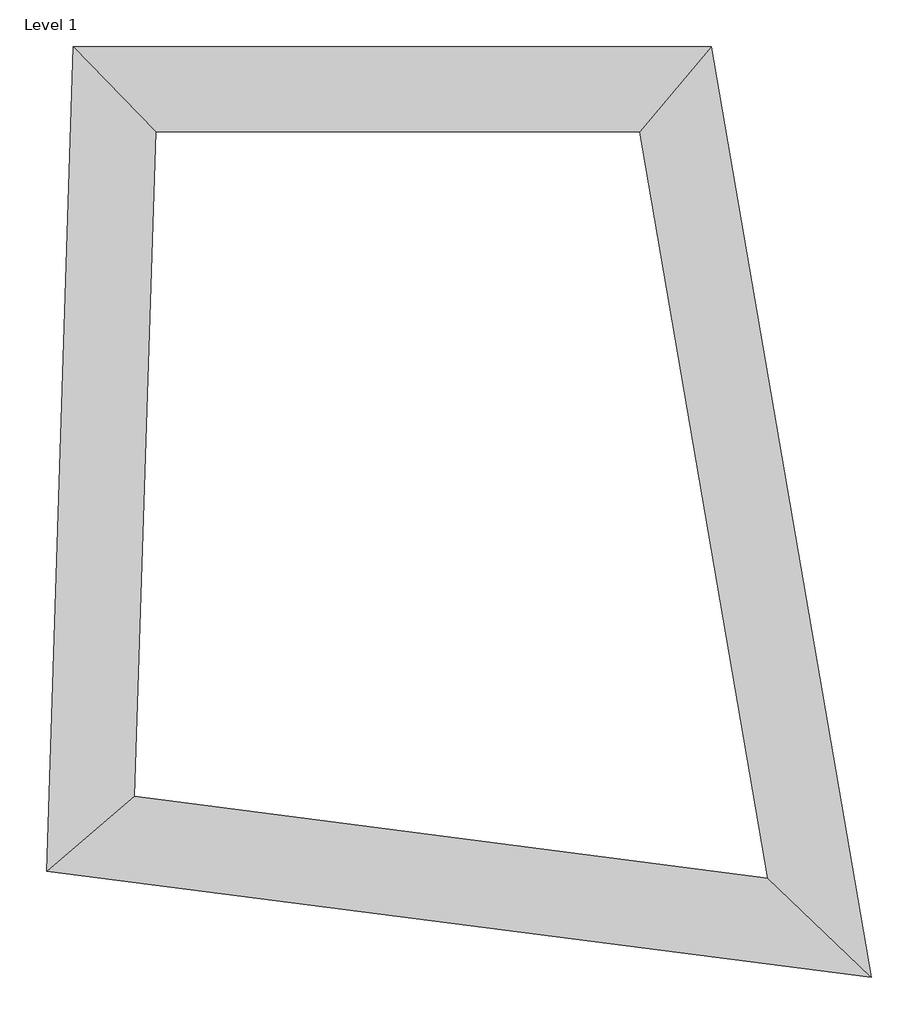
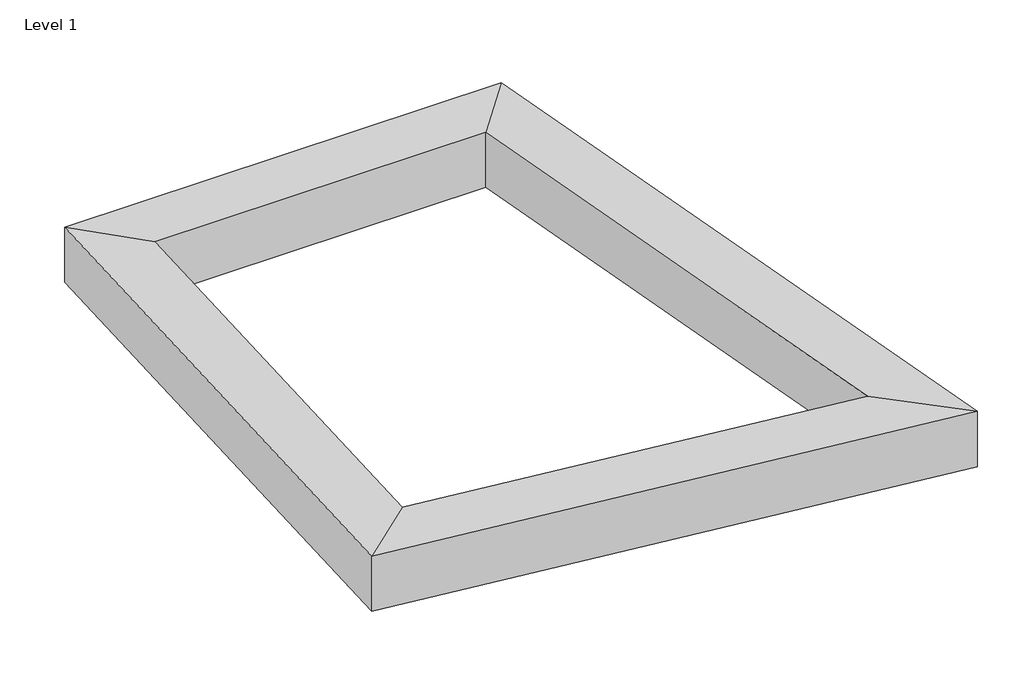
# One storey: 1 proxy.
"""IFC4 building model written with IfcOpenShell, lengths in millimetres."""

from ifc_helpers import new_model, si_unit, origin, place, context, project, spatial, transform, mapped, element, save
from components import frame_panel_frame_panel_29b1b9b6

model = new_model("IFC4")

# Units and contexts
model_context = context("Model", 3, world=origin())
ifc_project = project(units=[si_unit("LENGTHUNIT", "METRE", prefix="MILLI")], contexts=[model_context])

# Site, building, storey
site = spatial("IfcSite", under=ifc_project)
building = spatial("IfcBuilding", under=site)
storey = spatial("IfcBuildingStorey", under=building, Name="Level 1", Elevation=0.0)

# Proxy
placement = place(None, origin())
frame_panel_frame_panel_shape = frame_panel_frame_panel_29b1b9b6(model_context)
element("IfcBuildingElementProxy", 1, Name="Frame-Panel : Frame-Panel", ObjectType="Frame-Panel : Frame-Panel", at=placement, inside=storey, context=model_context, shape_type="MappedRepresentation", body=[
    mapped(frame_panel_frame_panel_shape, transform((-10959.7801409, -26362.3673656, 0.0), x_axis=(0.13178179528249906, -0.9912787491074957, 0.0), y_axis=(0.9912787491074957, 0.13178179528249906, 0.0), z_axis=(0.0, 0.0, 1.0))),
])

save(model, "model.ifc")
